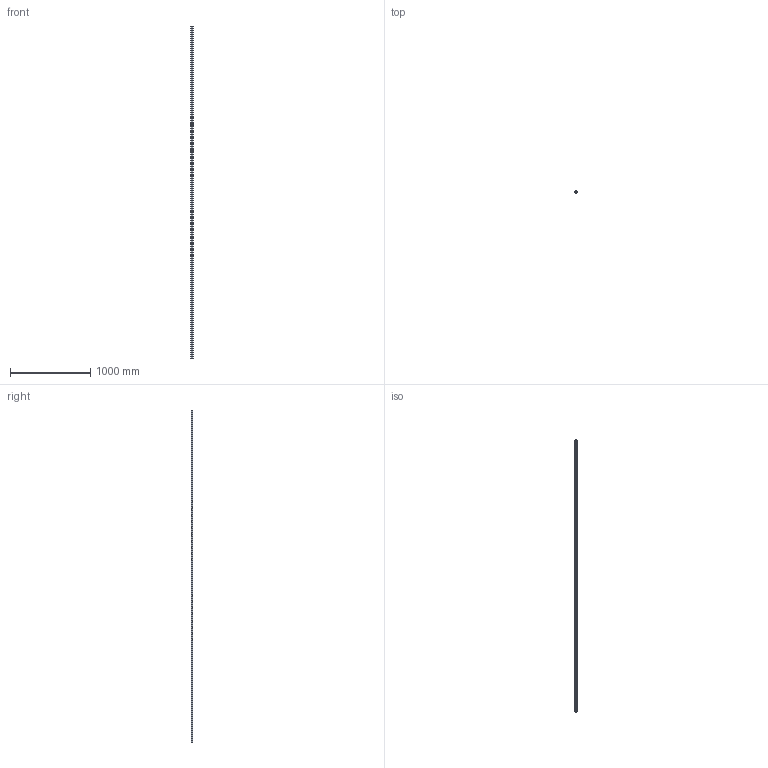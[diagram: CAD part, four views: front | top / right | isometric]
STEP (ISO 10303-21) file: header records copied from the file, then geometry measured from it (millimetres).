
FILE_DESCRIPTION(('STEP AP214'),'1');
FILE_NAME('CA.X.2518.4000.stp','2020-04-07T14:47:39',(' '),(' '),'Spatial InterOp 3D',' ',' ');
FILE_SCHEMA(('AUTOMOTIVE_DESIGN { 1 0 10303 214 1 1 1 1 }'));
Length unit declared in the file: millimetre
Products named in the file (2): CA.X.2518.4000
Assembly tree (1 placements, depth 2):
  CA.X.2518.4000
    CA.X.2518.4000
Bounding box: 25 x 18 x 4125 mm (x, y, z)
Volume: 694757 mm3; surface area: 920919.2 mm2
Topology: 1 solids, 1 shells, 122 faces, 360 edges, 240 vertices
Faces by surface type: cylinder 66, plane 56
Entity records: 5187 total; most frequent: DIRECTION 740, CARTESIAN_POINT 724, ORIENTED_EDGE 720, EDGE_CURVE 360, AXIS2_PLACEMENT_3D 256, VERTEX_POINT 240, LINE 228, VECTOR 228
